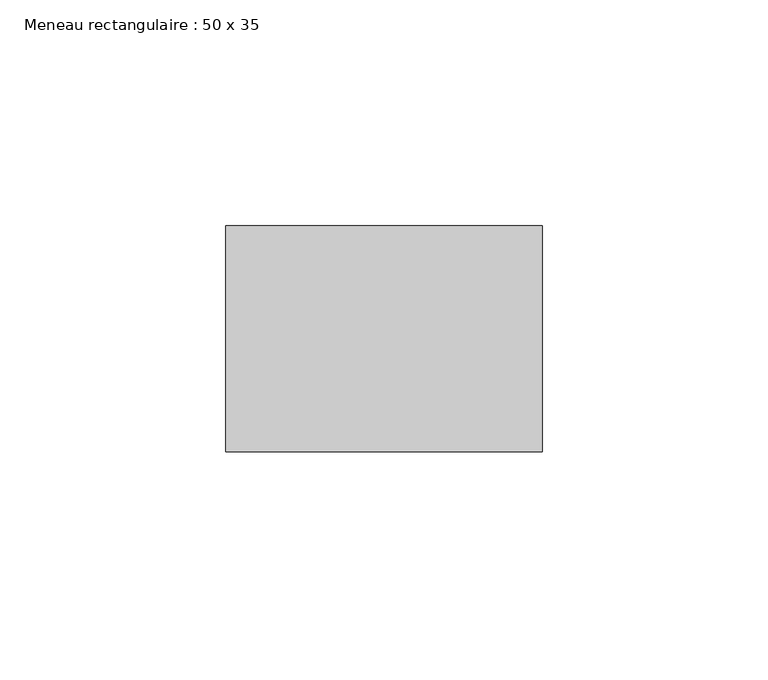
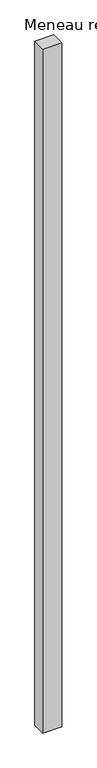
"""IFC4 building model written with IfcOpenShell, lengths in millimetres: member geometry, Meneau rectangulaire : 50 x 35."""

from ifc_helpers import new_model, si_unit, frame, origin, place, context, project, spatial, polyline, outline, extrude, source, transform, mapped, element, save


def meneau_rectangulaire_50_x_35_169e446e(model_context):
    return source(origin(), model_context, "Body", "SweptSolid", [
        extrude(outline(polyline([(0.0, 0.0), (0.0, -50.0), (-70.0, -50.0), (-70.0, 0.0), (0.0, 0.0)])), frame((0.0, 0.0, -2653.0), z_axis=(0.0, 0.0, 1.0), x_axis=(1.0, 0.0, 0.0)), (0.0, 0.0, 1.0), 2653.0),
    ])


if __name__ == "__main__":
    model = new_model("IFC4")
    model_context = context("Model", 3, world=origin())
    ifc_project = project(units=[si_unit("LENGTHUNIT", "METRE", prefix="MILLI")], contexts=[model_context])
    site = spatial("IfcSite", under=ifc_project)
    building = spatial("IfcBuilding", under=site)
    placement = place(None, origin())
    meneau_rectangulaire_50_x_35_shape = meneau_rectangulaire_50_x_35_169e446e(model_context)
    element("IfcMember", 1, ObjectType="Meneau rectangulaire : 50 x 35", at=placement, inside=building, context=model_context, shape_type="MappedRepresentation", body=[
        mapped(meneau_rectangulaire_50_x_35_shape, transform((0.0, 0.0, 0.0), x_axis=(1.0, 0.0, 0.0), y_axis=(0.0, 1.0, 0.0), z_axis=(0.0, 0.0, 1.0))),
    ])
    save(model, "model.ifc")
